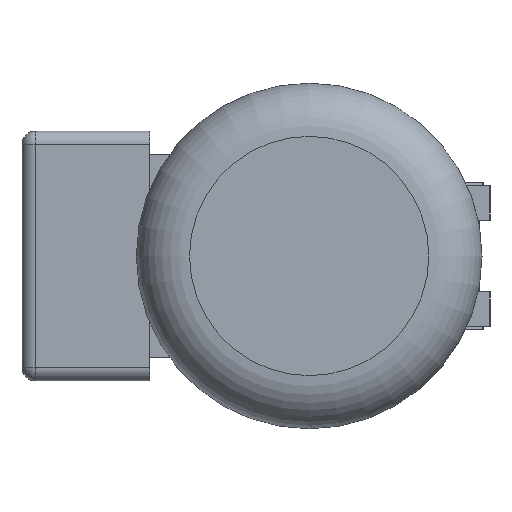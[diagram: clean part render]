
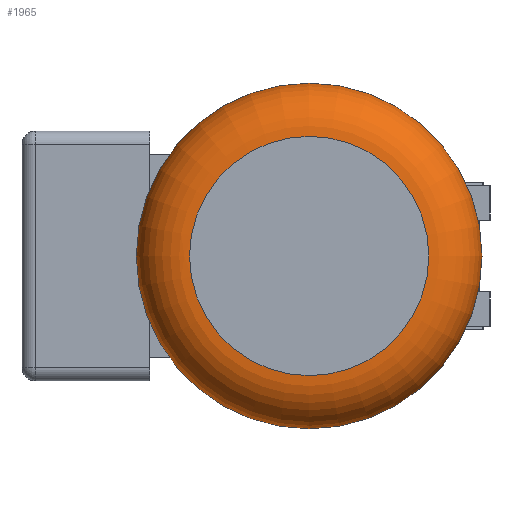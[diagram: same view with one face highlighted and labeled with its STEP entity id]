
A CAD part, left-side view. The second image highlights one B-rep face of the part: STEP entity #1965.
In plain terms, the highlighted toroidal (fillet/blend) face has major radius 45 mm and minor radius 20 mm.
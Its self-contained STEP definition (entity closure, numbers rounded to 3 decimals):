
#1965 = ADVANCED_FACE( '', ( #4290, #4291 ), #4292, .T. );
#4290 = FACE_OUTER_BOUND( '', #7162, .T. );
#4291 = FACE_OUTER_BOUND( '', #7163, .T. );
#4292 = TOROIDAL_SURFACE( '', #7164, 45., 20. );
#7162 = EDGE_LOOP( '', ( #13265 ) );
#7163 = EDGE_LOOP( '', ( #13266 ) );
#7164 = AXIS2_PLACEMENT_3D( '', #13267, #13268, #13269 );
#13265 = ORIENTED_EDGE( '', *, *, #17677, .F. );
#13266 = ORIENTED_EDGE( '', *, *, #16816, .F. );
#13267 = CARTESIAN_POINT( '', ( -234.5, 28., 0. ) );
#13268 = DIRECTION( '', ( -1., 0., 0. ) );
#13269 = DIRECTION( '', ( 0., 1., 0. ) );
#16816 = EDGE_CURVE( '', #20558, #20558, #20559, .F. );
#17677 = EDGE_CURVE( '', #21918, #21918, #21919, .T. );
#20558 = VERTEX_POINT( '', #25875 );
#20559 = CIRCLE( '', #25876, 65. );
#21918 = VERTEX_POINT( '', #27942 );
#21919 = CIRCLE( '', #27943, 45. );
#25875 = CARTESIAN_POINT( '', ( -234.5, 93., 0. ) );
#25876 = AXIS2_PLACEMENT_3D( '', #31393, #31394, #31395 );
#27942 = CARTESIAN_POINT( '', ( -254.5, 73., 0. ) );
#27943 = AXIS2_PLACEMENT_3D( '', #32360, #32361, #32362 );
#31393 = CARTESIAN_POINT( '', ( -234.5, 28., 0. ) );
#31394 = DIRECTION( '', ( -1., 0., 0. ) );
#31395 = DIRECTION( '', ( 0., 1., 0. ) );
#32360 = CARTESIAN_POINT( '', ( -254.5, 28., 0. ) );
#32361 = DIRECTION( '', ( -1., 0., 0. ) );
#32362 = DIRECTION( '', ( 0., 1., 0. ) );
